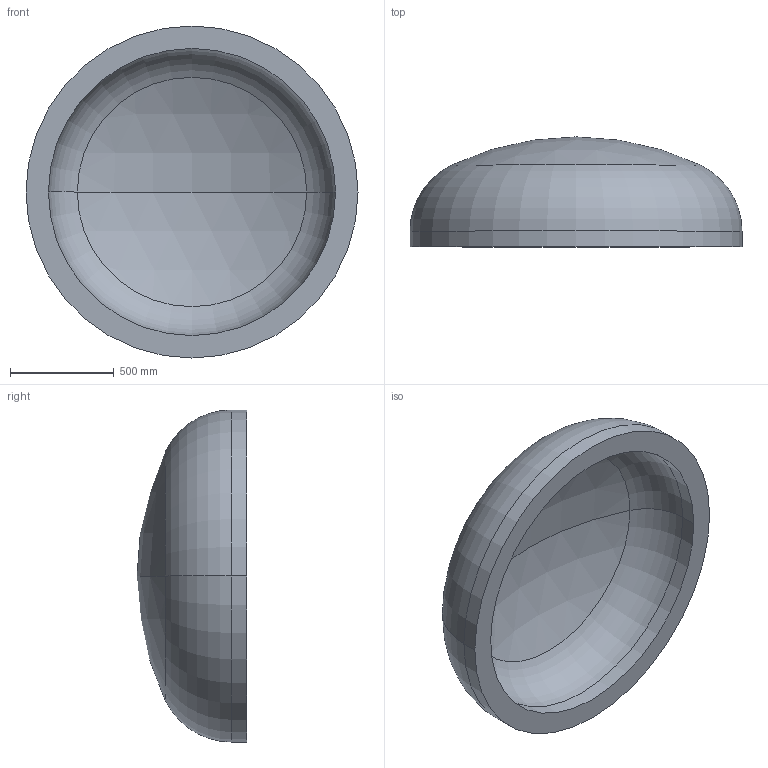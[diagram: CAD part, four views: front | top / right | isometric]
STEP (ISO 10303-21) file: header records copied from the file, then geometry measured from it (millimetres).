
FILE_DESCRIPTION (( 'STEP AP203' ), '1' );
FILE_NAME ('DIN 28013 Korbbogenform_-_Boden DIN 28013 - 1600 x 75 - I - s=108.step', '2016-07-01T11:31:15', ( '' ), ( '' ), 'SwSTEP 2.0', 'SolidWorks 2013', '' );
FILE_SCHEMA (( 'CONFIG_CONTROL_DESIGN' ));
Length unit declared in the file: millimetre
Products named in the file (1): DIN 28013 Korbbogenform_-_Boden DIN 28013 - 1600 x 75 - I - s=108
Bounding box: 1600 x 529.5 x 1600 mm (x, y, z)
Volume: 313731538.4 mm3; surface area: 6340494.6 mm2
Topology: 1 solids, 1 shells, 13 faces, 24 edges, 14 vertices
Faces by surface type: torus 4, cylinder 4, sphere 4, plane 1
Entity records: 407 total; most frequent: DIRECTION 72, CARTESIAN_POINT 52, ORIENTED_EDGE 48, AXIS2_PLACEMENT_3D 34, EDGE_CURVE 24, CIRCLE 20, VERTEX_POINT 14, EDGE_LOOP 14
